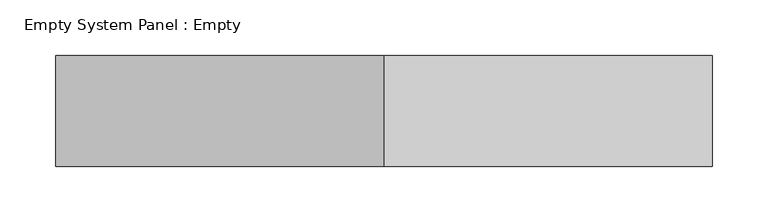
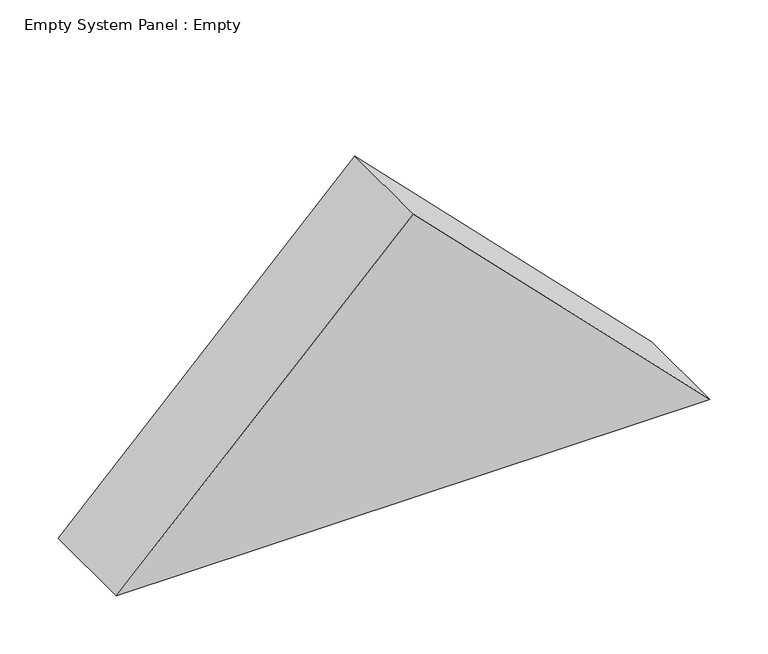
"""IFC4 building model written with IfcOpenShell, lengths in millimetres: plate geometry, Empty System Panel : Empty."""

import ifcopenshell
import ifcopenshell.guid

model = None  # the IFC model being written
_history = None  # IfcOwnerHistory: only IFC2X3 demands one
_inside = {}  # id of a spatial element -> (the spatial element, [elements in it])
_under = {}  # id of a project, library or spatial element -> (it, [spatial elements below it])
_declared = {}  # id of a project -> (the project, [libraries it declares])
_typed = {}  # id of a type object -> (the type object, [elements of that type])
_made_of = {}  # id of a material, layer set ... -> (it, [elements and type objects made of it])


def new_model(schema):
    """Start an empty IFC model of exactly this schema.

    Asked for "IFC4X3", IfcOpenShell would pick the latest addendum, in which some entities
    have other attributes; the version numbers below select the first issue.
    IFC2X3 requires an IfcOwnerHistory on every rooted entity: one is made here for all.
    """
    global model, _history
    if schema == "IFC4X3":
        model = ifcopenshell.file(schema_version=(4, 3, 0, 0))
    else:
        model = ifcopenshell.file(schema=schema)
    _inside.clear()
    _under.clear()
    _declared.clear()
    _typed.clear()
    _made_of.clear()
    _history = None
    if model.schema == "IFC2X3":
        org = make("IfcOrganization", Name="unknown")
        user = make(
            "IfcPersonAndOrganization",
            ThePerson=make("IfcPerson", FamilyName="unknown"),
            TheOrganization=org,
        )
        app = make(
            "IfcApplication",
            ApplicationDeveloper=org,
            Version="unknown",
            ApplicationFullName="unknown",
            ApplicationIdentifier="unknown",
        )
        _history = make(
            "IfcOwnerHistory",
            OwningUser=user,
            OwningApplication=app,
            ChangeAction="ADDED",
            CreationDate=0,
        )
    return model


def make(cls, **values):
    """One entity of the class cls with the attributes given. An attribute that is None is left unset."""
    return model.create_entity(
        cls, **{name: value for name, value in values.items() if value is not None}
    )


def rooted(cls, **values):
    """An entity with a GlobalId (a new one), such as an element, a storey or a relation."""
    return make(cls, GlobalId=ifcopenshell.guid.new(), OwnerHistory=_history, **values)


def si_unit(unit_type, name, prefix=None):
    """IfcSIUnit, for example si_unit("LENGTHUNIT", "METRE", prefix="MILLI")."""
    return make("IfcSIUnit", UnitType=unit_type, Prefix=prefix, Name=name)


def assignment(units):
    """IfcUnitAssignment: the units of a project."""
    return None if units is None else make("IfcUnitAssignment", Units=units)


def point(xyz):
    """IfcCartesianPoint."""
    return None if xyz is None else make("IfcCartesianPoint", Coordinates=xyz)


def direction(xyz):
    """IfcDirection."""
    return None if xyz is None else make("IfcDirection", DirectionRatios=xyz)


def frame(location, z_axis=None, x_axis=None):
    """IfcAxis2Placement3D, a coordinate frame: its origin and axes. An axis left out is left unset."""
    return make(
        "IfcAxis2Placement3D",
        Location=point(location),
        Axis=direction(z_axis),
        RefDirection=direction(x_axis),
    )


def origin():
    """The frame at (0, 0, 0) with its axes left unset."""
    return frame((0.0, 0.0, 0.0))


def place(relative_to, where):
    """IfcLocalPlacement: puts the frame where relative to a parent placement (None: the world)."""
    return make(
        "IfcLocalPlacement", PlacementRelTo=relative_to, RelativePlacement=where
    )


def context(
    kind, dimensions, precision=None, world=None, true_north=None, identifier=None
):
    """IfcGeometricRepresentationContext, for example the 3D "Model" context."""
    return make(
        "IfcGeometricRepresentationContext",
        ContextIdentifier=identifier,
        ContextType=kind,
        CoordinateSpaceDimension=dimensions,
        Precision=precision,
        WorldCoordinateSystem=world,
        TrueNorth=true_north,
    )


def project(units=None, contexts=None):
    """IfcProject with its units and contexts."""
    return rooted(
        "IfcProject",
        Name="project",
        RepresentationContexts=contexts,
        UnitsInContext=assignment(units),
    )


def spatial(cls, under=None, at=None, **own):
    """A site, building, storey or space (cls), placed at a placement, below another one or the project."""
    s = rooted(cls, ObjectPlacement=at, **own)
    if under is not None:
        _under.setdefault(under.id(), (under, []))[1].append(s)
    return s


def polyline(points):
    """IfcPolyline through the points."""
    return make("IfcPolyline", Points=[point(p) for p in points])


def outline(outer, holes=None, kind="AREA"):
    """IfcArbitraryClosedProfileDef: a profile drawn as a closed curve; with holes, ...WithVoids."""
    if holes is None:
        return make("IfcArbitraryClosedProfileDef", ProfileType=kind, OuterCurve=outer)
    return make(
        "IfcArbitraryProfileDefWithVoids",
        ProfileType=kind,
        OuterCurve=outer,
        InnerCurves=holes,
    )


def extrude(swept, where, along, depth):
    """IfcExtrudedAreaSolid: the profile swept, set in the frame where, extruded along a direction by depth."""
    return make(
        "IfcExtrudedAreaSolid",
        SweptArea=swept,
        Position=where,
        ExtrudedDirection=direction(along),
        Depth=depth,
    )


def shape(context_of_items, identifier, shape_type, items):
    """IfcShapeRepresentation: the items that make up one representation, for example the "Body"."""
    return make(
        "IfcShapeRepresentation",
        ContextOfItems=context_of_items,
        RepresentationIdentifier=identifier,
        RepresentationType=shape_type,
        Items=items,
    )


def source(mapping_origin, context_of_items, identifier, shape_type, items):
    """IfcRepresentationMap: a shape defined once, which mapped items show again and again."""
    return make(
        "IfcRepresentationMap",
        MappingOrigin=mapping_origin,
        MappedRepresentation=shape(context_of_items, identifier, shape_type, items),
    )


def transform(
    local_origin,
    x_axis=None,
    y_axis=None,
    z_axis=None,
    scale=None,
    scale2=None,
    scale3=None,
    uniform=True,
):
    """IfcCartesianTransformationOperator3D, or its non-uniform kind. x_axis, y_axis, z_axis: its Axis1, 2, 3."""
    if uniform:
        return make(
            "IfcCartesianTransformationOperator3D",
            Axis1=direction(x_axis),
            Axis2=direction(y_axis),
            LocalOrigin=point(local_origin),
            Scale=scale,
            Axis3=direction(z_axis),
        )
    return make(
        "IfcCartesianTransformationOperator3DnonUniform",
        Axis1=direction(x_axis),
        Axis2=direction(y_axis),
        LocalOrigin=point(local_origin),
        Scale=scale,
        Axis3=direction(z_axis),
        Scale2=scale2,
        Scale3=scale3,
    )


def mapped(mapping_source, mapping_target):
    """IfcMappedItem: shows the shape of a source again, moved by a transform."""
    return make(
        "IfcMappedItem", MappingSource=mapping_source, MappingTarget=mapping_target
    )


def made_of(thing, what):
    """Note that an element or type object is made of a material, layer set ...; save() writes the relation."""
    if what is not None:
        _made_of.setdefault(what.id(), (what, []))[1].append(thing)
    return thing


def element(
    cls,
    number,
    at=None,
    inside=None,
    cuts=None,
    type_object=None,
    material=None,
    context=None,
    identifier="Body",
    shape_type=None,
    held_by="IfcProductDefinitionShape",
    body=None,
    shapes=None,
    **own,
):
    """One element of the class cls, such as IfcWall. Its Tag is "e" and its number.

    at: its placement. inside: the storey or other place that contains it. cuts: it is an
    opening in that element (IfcRelVoidsElement). A single representation is given by context,
    identifier, shape_type and body (its items); several are given by shapes. held_by: the class
    of the entity that holds the representations. save() writes the other relations.
    """
    e = rooted(cls, Tag="e%d" % number, ObjectPlacement=at, **own)
    if body is not None:
        shapes = [shape(context, identifier, shape_type, body)]
    if shapes is not None:
        e.Representation = make(held_by, Representations=shapes)
    if inside is not None:
        _inside.setdefault(inside.id(), (inside, []))[1].append(e)
    if cuts is not None:
        rooted(
            "IfcRelVoidsElement", RelatingBuildingElement=cuts, RelatedOpeningElement=e
        )
    if type_object is not None:
        _typed.setdefault(type_object.id(), (type_object, []))[1].append(e)
    return made_of(e, material)


def aggregate(whole, parts):
    """IfcRelAggregates: a whole, such as a stair, and the parts it consists of."""
    return rooted("IfcRelAggregates", RelatingObject=whole, RelatedObjects=parts)


def save(model, path):
    """Write the relations noted so far, then the file.

    IfcRelAggregates (storeys below a building ...), IfcRelContainedInSpatialStructure (elements
    in a storey), IfcRelDefinesByType, IfcRelAssociatesMaterial and IfcRelDeclares: one each for
    every whole, place, type object, material and project.
    """
    for whole, parts in _under.values():
        aggregate(whole, parts)
    for where, things in _inside.values():
        rooted(
            "IfcRelContainedInSpatialStructure",
            RelatedElements=things,
            RelatingStructure=where,
        )
    for kind, things in _typed.values():
        rooted("IfcRelDefinesByType", RelatedObjects=things, RelatingType=kind)
    for what, things in _made_of.values():
        rooted("IfcRelAssociatesMaterial", RelatedObjects=things, RelatingMaterial=what)
    for by, libraries in _declared.values():
        rooted("IfcRelDeclares", RelatingContext=by, RelatedDefinitions=libraries)
    model.write(path)


def empty_system_panel_empty_7c35c351(model_context):
    return source(origin(), model_context, "Body", "SweptSolid", [
        extrude(outline(polyline([(0.0, -295.4589891), (0.0, 295.4589891), (298.7644131, 0.0), (0.0, -295.4589891)])), frame((0.0, -50.0, 0.0), z_axis=(0.0, 1.0, 0.0), x_axis=(0.0, 0.0, 1.0)), (0.0, 0.0, 1.0), 100.0),
    ])


if __name__ == "__main__":
    model = new_model("IFC4")
    model_context = context("Model", 3, world=origin())
    ifc_project = project(units=[si_unit("LENGTHUNIT", "METRE", prefix="MILLI")], contexts=[model_context])
    site = spatial("IfcSite", under=ifc_project)
    building = spatial("IfcBuilding", under=site)
    placement = place(None, origin())
    empty_system_panel_empty_shape = empty_system_panel_empty_7c35c351(model_context)
    element("IfcPlate", 1, ObjectType="Empty System Panel : Empty", at=placement, inside=building, context=model_context, shape_type="MappedRepresentation", body=[
        mapped(empty_system_panel_empty_shape, transform((0.0, 0.0, 0.0), x_axis=(1.0, 0.0, 0.0), y_axis=(0.0, 1.0, 0.0), z_axis=(0.0, 0.0, 1.0))),
    ])
    save(model, "model.ifc")
